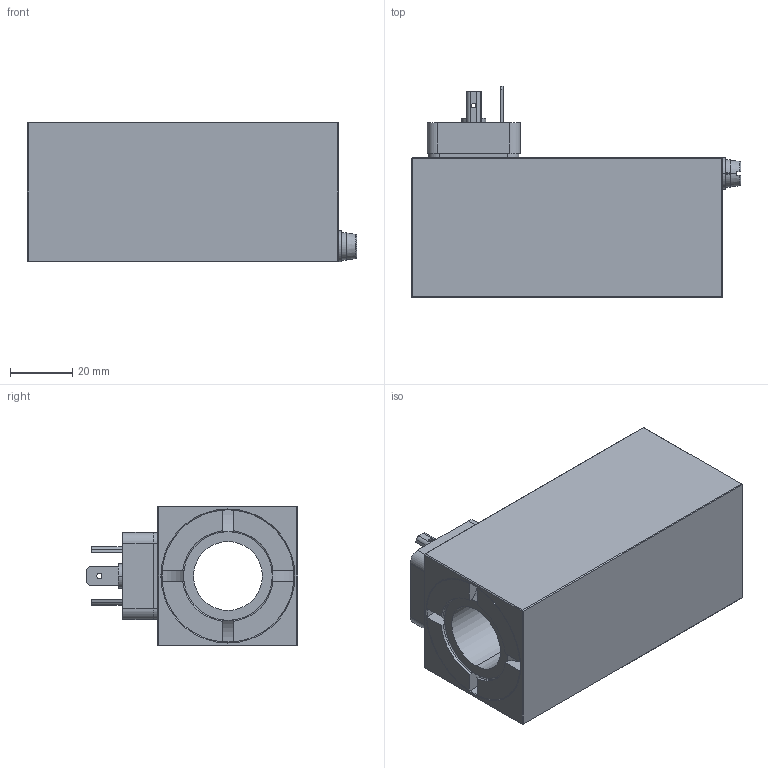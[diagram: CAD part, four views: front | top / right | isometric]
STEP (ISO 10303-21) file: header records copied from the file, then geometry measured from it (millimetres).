
FILE_DESCRIPTION (( 'STEP AP214' ), '1' );
FILE_NAME ('MDS45.STEP', '2017-03-01T14:37:47', ( '' ), ( '' ), 'SwSTEP 2.0', 'SolidWorks 2016', '' );
FILE_SCHEMA (( 'AUTOMOTIVE_DESIGN' ));
Length unit declared in the file: millimetre
Products named in the file (1): MDS45
Bounding box: 105.9 x 68.1 x 45 mm (x, y, z)
Volume: 168638.7 mm3; surface area: 37790.3 mm2
Topology: 14 solids, 18 shells, 823 faces, 2111 edges, 1386 vertices
Faces by surface type: plane 577, cylinder 216, cone 20, torus 8, bspline 2
Entity records: 34354 total; most frequent: CARTESIAN_POINT 4772, ORIENTED_EDGE 4218, DIRECTION 4160, EDGE_CURVE 2109, VECTOR 1564, LINE 1564, VERTEX_POINT 1386, AXIS2_PLACEMENT_3D 1298
